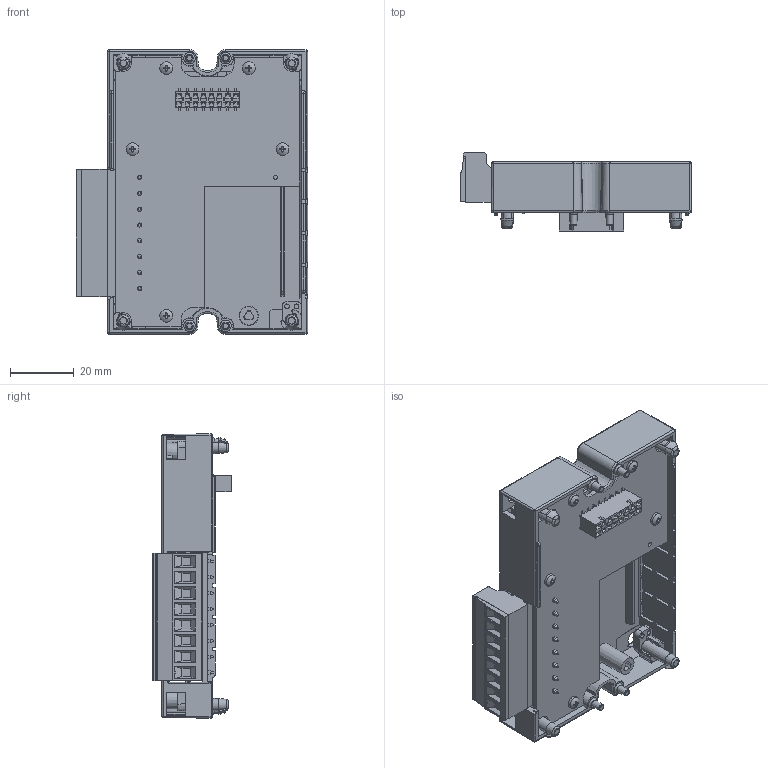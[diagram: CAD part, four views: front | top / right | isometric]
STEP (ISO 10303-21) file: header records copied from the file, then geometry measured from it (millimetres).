
FILE_DESCRIPTION(/* description */ (''),/* implementation_level */ '2;1');
FILE_NAME(/* name */ 'D:\Meccanica\Step x UTC\MOR2.stp',/* time_stamp */ '2016-05-27T09:55:59+02:00',/* author */ ('sditommaso'),/* organization */ (''),/* preprocessor_version */ 'ST-DEVELOPER v16.1',/* originating_system */ 'Autodesk Inventor 2016',/* authorisation */ '');
FILE_SCHEMA (('AUTOMOTIVE_DESIGN { 1 0 10303 214 3 1 1 }'));
Products named in the file (1): Assieme_Shrinkwrap_1
Bounding box: 72.78 x 24.62 x 89.49 mm (x, y, z)
Volume: 34211.9 mm3; surface area: 40555.1 mm2
Topology: 5 solids, 6 shells, 3509 faces, 10055 edges, 6482 vertices
Faces by surface type: plane 2467, cylinder 516, bspline 227, cone 209, torus 73, sphere 17
Full cylindrical faces by diameter (mm): 1.2 x2, 1.3 x2, 1.5 x37, 1.52 x1, 1.7 x1, 2 x1, 2.2 x5, 2.75 x8, 3.7 x8, 3.85 x8, 4 x13
Entity records: 122151 total; most frequent: CARTESIAN_POINT 28908, ORIENTED_EDGE 19360, DIRECTION 17292, EDGE_CURVE 9680, LINE 7094, VECTOR 7094, VERTEX_POINT 6352, AXIS2_PLACEMENT_3D 5099
